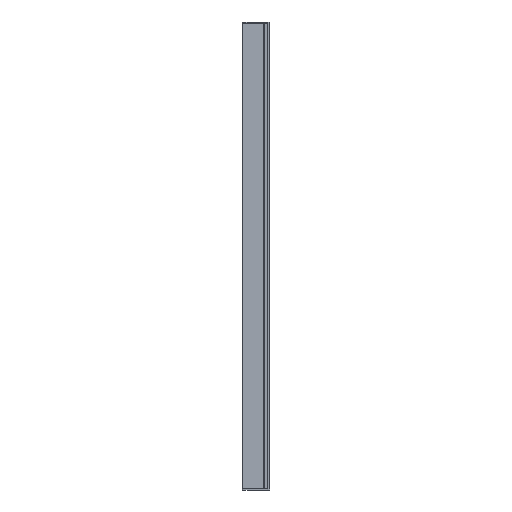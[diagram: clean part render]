
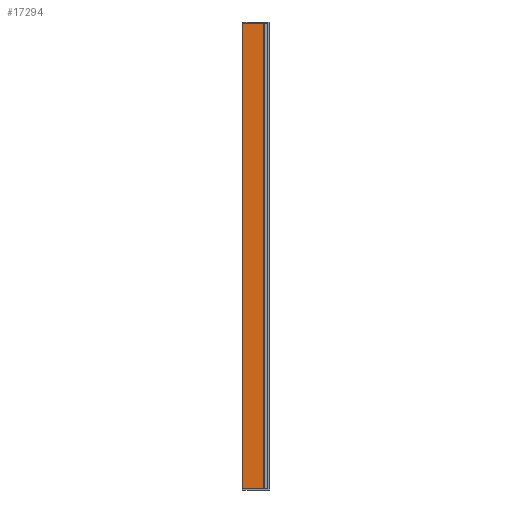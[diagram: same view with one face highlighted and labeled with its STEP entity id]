
A CAD part, left-side view. The second image highlights one B-rep face of the part: STEP entity #17294.
In plain terms, the highlighted planar face has unit normal (-1, 0, 0).
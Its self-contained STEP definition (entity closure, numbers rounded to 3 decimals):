
#894 = CARTESIAN_POINT ( 'NONE',  ( -19., 26.417, 230. ) ) ;
#1139 = VECTOR ( 'NONE', #21343, 1000. ) ;
#1327 = EDGE_CURVE ( 'NONE', #23943, #19018, #11392, .T. ) ;
#1991 = EDGE_CURVE ( 'NONE', #25980, #7498, #12442, .T. ) ;
#2056 = VECTOR ( 'NONE', #17960, 1000. ) ;
#2144 = ORIENTED_EDGE ( 'NONE', *, *, #23952, .F. ) ;
#2329 = DIRECTION ( 'NONE',  ( 0., 0., -1. ) ) ;
#3567 = VECTOR ( 'NONE', #28906, 1000. ) ;
#4452 = EDGE_CURVE ( 'NONE', #19018, #7498, #27533, .T. ) ;
#4509 = AXIS2_PLACEMENT_3D ( 'NONE', #10308, #28300, #28581 ) ;
#5592 = ORIENTED_EDGE ( 'NONE', *, *, #4452, .T. ) ;
#5614 = CARTESIAN_POINT ( 'NONE',  ( -19., 5.9, 230. ) ) ;
#7498 = VERTEX_POINT ( 'NONE', #26507 ) ;
#10308 = CARTESIAN_POINT ( 'NONE',  ( -19., 26.417, 230. ) ) ;
#11368 = CARTESIAN_POINT ( 'NONE',  ( -19., 5.9, 230. ) ) ;
#11392 = LINE ( 'NONE', #11820, #28551 ) ;
#11820 = CARTESIAN_POINT ( 'NONE',  ( -19., 26.417, 230. ) ) ;
#12442 = LINE ( 'NONE', #11368, #2056 ) ;
#13298 = LINE ( 'NONE', #894, #1139 ) ;
#15670 = EDGE_LOOP ( 'NONE', ( #5592, #21685, #2144, #26746 ) ) ;
#17084 = PLANE ( 'NONE',  #4509 ) ;
#17294 = ADVANCED_FACE ( 'NONE', ( #20490 ), #17084, .F. ) ;
#17960 = DIRECTION ( 'NONE',  ( 0., 0., -1. ) ) ;
#19018 = VERTEX_POINT ( 'NONE', #27763 ) ;
#20490 = FACE_OUTER_BOUND ( 'NONE', #15670, .T. ) ;
#21343 = DIRECTION ( 'NONE',  ( 0., -1., 0. ) ) ;
#21685 = ORIENTED_EDGE ( 'NONE', *, *, #1991, .F. ) ;
#23510 = CARTESIAN_POINT ( 'NONE',  ( -19., 26.417, 230. ) ) ;
#23943 = VERTEX_POINT ( 'NONE', #23510 ) ;
#23952 = EDGE_CURVE ( 'NONE', #23943, #25980, #13298, .T. ) ;
#25980 = VERTEX_POINT ( 'NONE', #5614 ) ;
#26412 = CARTESIAN_POINT ( 'NONE',  ( -19., 26.417, -230. ) ) ;
#26507 = CARTESIAN_POINT ( 'NONE',  ( -19., 5.9, -230. ) ) ;
#26746 = ORIENTED_EDGE ( 'NONE', *, *, #1327, .T. ) ;
#27533 = LINE ( 'NONE', #26412, #3567 ) ;
#27763 = CARTESIAN_POINT ( 'NONE',  ( -19., 26.417, -230. ) ) ;
#28300 = DIRECTION ( 'NONE',  ( 1., 0., 0. ) ) ;
#28551 = VECTOR ( 'NONE', #2329, 1000. ) ;
#28581 = DIRECTION ( 'NONE',  ( 0., 0., -1. ) ) ;
#28906 = DIRECTION ( 'NONE',  ( 0., -1., 0. ) ) ;
